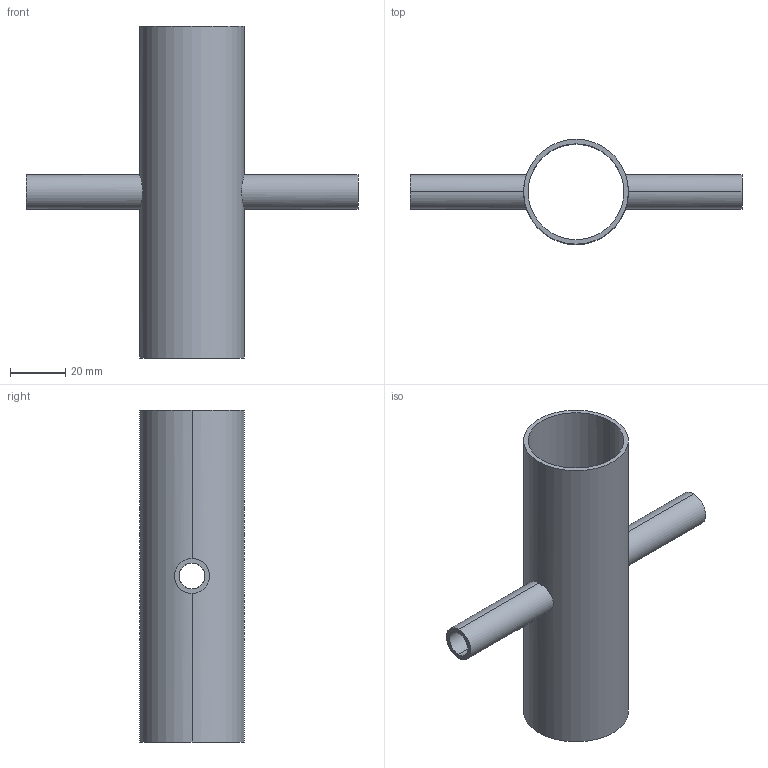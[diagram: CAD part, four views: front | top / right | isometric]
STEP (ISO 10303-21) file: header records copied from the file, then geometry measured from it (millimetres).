
FILE_DESCRIPTION (( 'STEP AP214' ), '1' );
FILE_NAME ('TE9RWWWW6L1.5x.5-...STEP', '2016-05-22T04:13:06', ( 'eran' ), ( '' ), 'SwSTEP 2.0', 'SolidWorks 2016', '' );
FILE_SCHEMA (( 'AUTOMOTIVE_DESIGN' ));
Length unit declared in the file: millimetre
Products named in the file (1): TE9RWWWW6L1.5x.5-..
Bounding box: 120.65 x 38.1 x 120.65 mm (x, y, z)
Volume: 27356.7 mm3; surface area: 33616.9 mm2
Topology: 1 solids, 1 shells, 16 faces, 40 edges, 24 vertices
Faces by surface type: cylinder 12, plane 4
Entity records: 806 total; most frequent: CARTESIAN_POINT 381, DIRECTION 82, ORIENTED_EDGE 80, EDGE_CURVE 40, AXIS2_PLACEMENT_3D 33, VERTEX_POINT 24, EDGE_LOOP 20, ADVANCED_FACE 16
